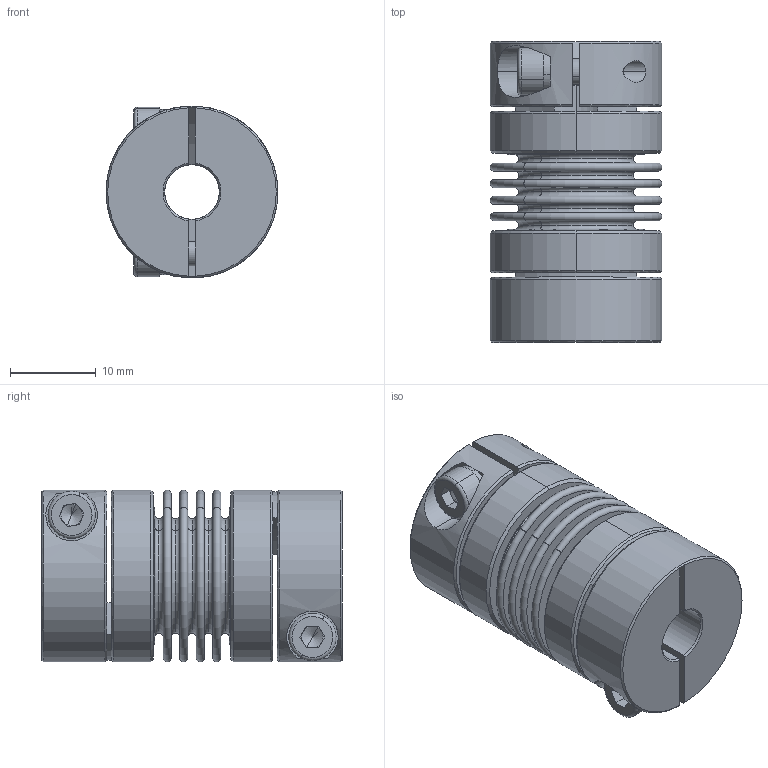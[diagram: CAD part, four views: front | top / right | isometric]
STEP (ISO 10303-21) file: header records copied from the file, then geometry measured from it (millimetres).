
FILE_DESCRIPTION (( 'STEP AP203' ), '1' );
FILE_NAME ('LB-B-D20L34-6.35-8.STEP', '2021-11-04T01:41:51', ( '' ), ( '' ), 'SwSTEP 2.0', 'SolidWorks 2018', '' );
FILE_SCHEMA (( 'CONFIG_CONTROL_DESIGN' ));
Length unit declared in the file: millimetre
Products named in the file (2): LB-B-D20L34-6.35-8; 零件4^LB-B-D20L34 波纹管联轴器-组装体
Assembly tree (1 placements, depth 2):
  LB-B-D20L34-6.35-8
    零件4^LB-B-D20L34 波纹管联轴器-组装体
Bounding box: 20 x 35 x 20 mm (x, y, z)
Volume: 5871.9 mm3; surface area: 9517 mm2
Topology: 1 solids, 1 shells, 246 faces, 572 edges, 354 vertices
Faces by surface type: plane 83, torus 68, cylinder 61, cone 34
Entity records: 7500 total; most frequent: CARTESIAN_POINT 1478, DIRECTION 1376, ORIENTED_EDGE 1136, AXIS2_PLACEMENT_3D 604, EDGE_CURVE 568, CIRCLE 354, VERTEX_POINT 354, EDGE_LOOP 288
